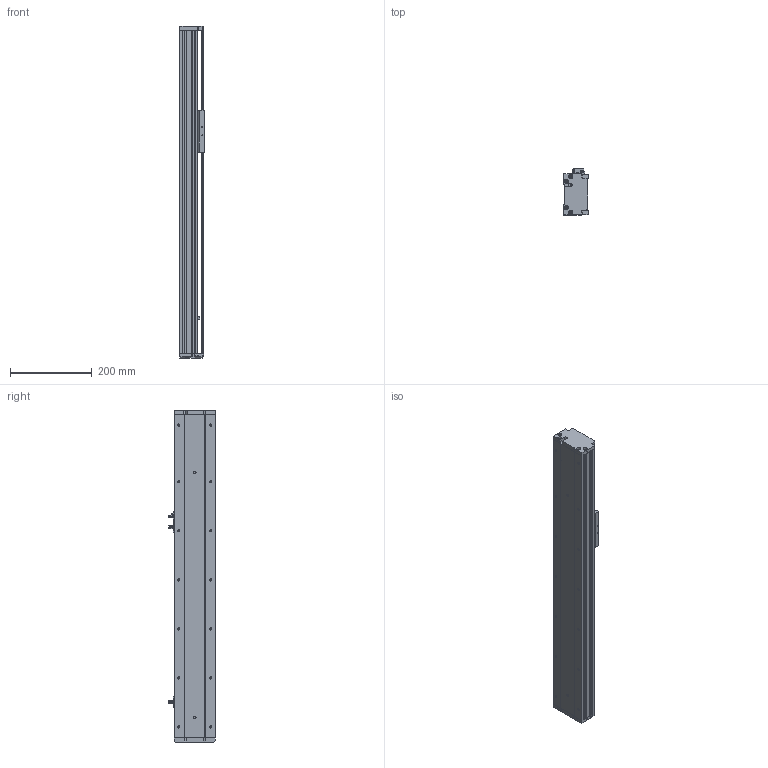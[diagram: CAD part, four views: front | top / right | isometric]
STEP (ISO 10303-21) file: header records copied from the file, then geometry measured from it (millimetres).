
FILE_DESCRIPTION (( 'STEP AP214' ), '1' );
FILE_NAME ('KSD100S-S450-M-CM.STEP', '2019-08-29T08:38:17', ( '微软用户' ), ( '微软中国' ), 'SwSTEP 2.0', 'SolidWorks 2014', '' );
FILE_SCHEMA (( 'AUTOMOTIVE_DESIGN' ));
Length unit declared in the file: millimetre
Products named in the file (8): KSD100S-S450-M-CM; 覜茼え100遵圉猾敕; U倰嫖萇EEㄜSX672; 100宽防尘板丝杆450行程电机内装; 100宽马达安装板-电机内装; 100宽滚珠螺姆安装板半封闭; 100遵傷啣; 100宽底板半封闭丝杆450行程电机内装
Assembly tree (9 placements, depth 2):
  KSD100S-S450-M-CM
    100宽底板半封闭丝杆450行程电机内装
    100遵傷啣
    100宽滚珠螺姆安装板半封闭
    100宽马达安装板-电机内装
    100宽防尘板丝杆450行程电机内装
    U倰嫖萇EEㄜSX672  x3
    覜茼え100遵圉猾敕
Bounding box: 60 x 113.7 x 813 mm (x, y, z)
Volume: 1606944 mm3; surface area: 582179.6 mm2
Topology: 9 solids, 9 shells, 1021 faces, 2900 edges, 1833 vertices
Faces by surface type: cylinder 468, plane 440, cone 113
Entity records: 34966 total; most frequent: CARTESIAN_POINT 6996, DIRECTION 4565, ORIENTED_EDGE 4476, EDGE_CURVE 2238, AXIS2_PLACEMENT_3D 1630, VERTEX_POINT 1457, VECTOR 1305, LINE 1305
